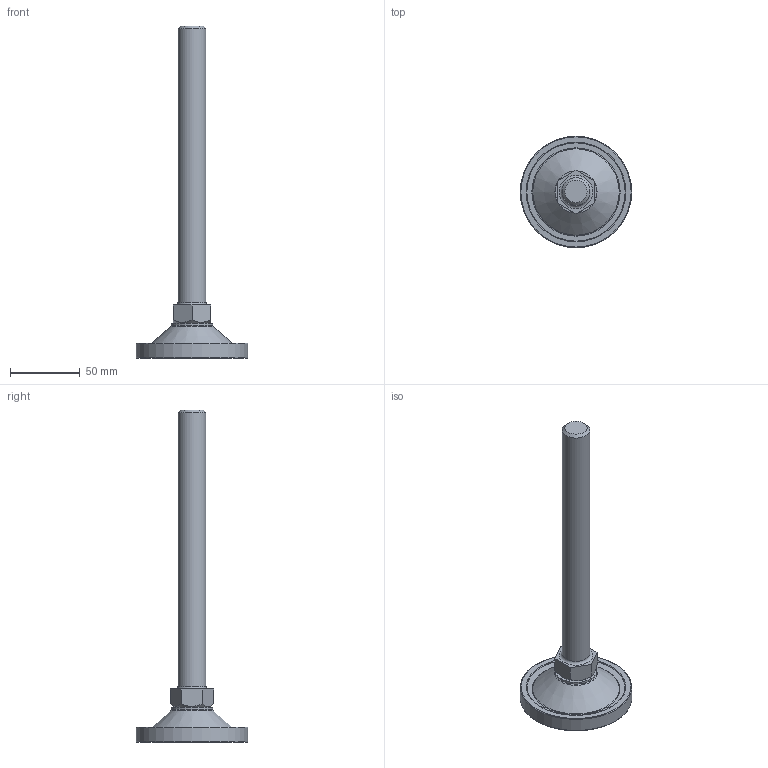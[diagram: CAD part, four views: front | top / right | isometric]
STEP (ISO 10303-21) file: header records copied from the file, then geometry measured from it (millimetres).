
FILE_DESCRIPTION(/* description */ (''),/* implementation_level */ '2;1');
FILE_NAME(/* name */ 'D:\조절자\PFR\PFR-M20-200L.stp',/* time_stamp */ '2016-03-14T15:09:02+09:00',/* author */ ('GS-DT-1-001'),/* organization */ (''),/* preprocessor_version */ 'ST-DEVELOPER v15.6',/* originating_system */ 'Autodesk Inventor LT ',/* authorisation */ '');
FILE_SCHEMA (('AUTOMOTIVE_DESIGN { 1 0 10303 214 3 1 1 }'));
Length unit declared in the file: millimetre
Products named in the file (1): PFR-M20-200L
Bounding box: 80 x 80 x 238 mm (x, y, z)
Volume: 116122.6 mm3; surface area: 42314.1 mm2
Topology: 4 solids, 4 shells, 71 faces, 132 edges, 81 vertices
Faces by surface type: plane 26, torus 24, cone 12, cylinder 9
Full cylindrical faces by diameter (mm): 5 x1, 7.153 x1, 8.2 x1, 8.8 x1, 20 x1, 30 x1, 74 x1, 74.4 x1, 80 x1
Entity records: 1509 total; most frequent: DIRECTION 282, CARTESIAN_POINT 240, ORIENTED_EDGE 162, AXIS2_PLACEMENT_3D 135, EDGE_LOOP 134, EDGE_CURVE 81, VERTEX_POINT 75, FACE_OUTER_BOUND 71
